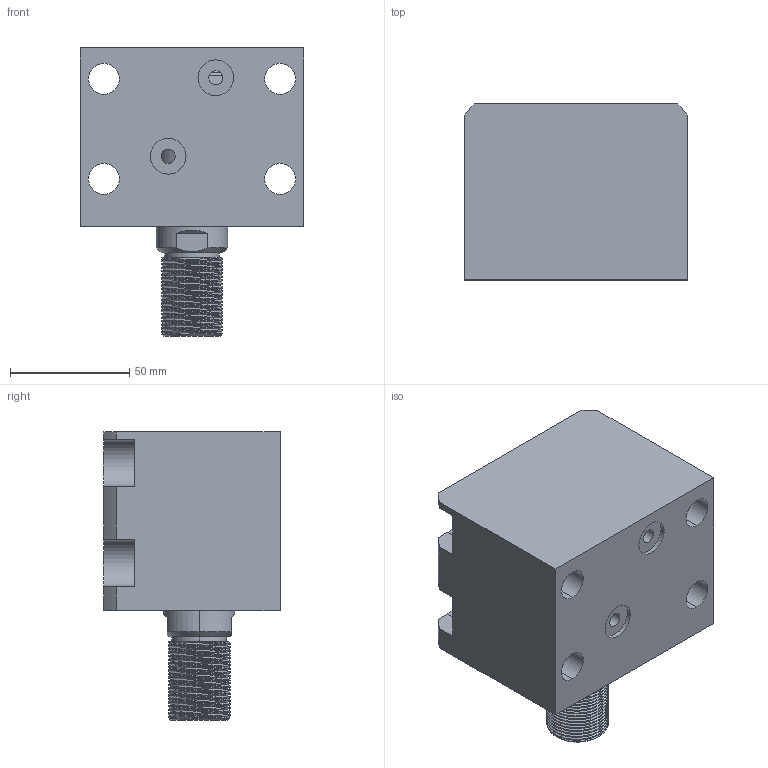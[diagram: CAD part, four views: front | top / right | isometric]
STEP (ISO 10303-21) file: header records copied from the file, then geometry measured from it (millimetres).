
FILE_DESCRIPTION (( 'STEP AP203' ), '1' );
FILE_NAME ('CHTB-LAM50-15W.STEP', '2018-05-23T09:28:22', ( '' ), ( '' ), 'SwSTEP 2.0', 'SolidWorks 2015', '' );
FILE_SCHEMA (( 'CONFIG_CONTROL_DESIGN' ));
Length unit declared in the file: millimetre
Products named in the file (4): 掛极LAM50-15W; CHTB-LAM50-15W; 活塞杆LA50-15W; CHTM-SDMA50QG
Assembly tree (3 placements, depth 2):
  CHTB-LAM50-15W
    掛极LAM50-15W
    活塞杆LA50-15W
    CHTM-SDMA50QG
Bounding box: 94 x 74 x 121 mm (x, y, z)
Volume: 470535.4 mm3; surface area: 93891.7 mm2
Topology: 3 solids, 3 shells, 224 faces, 623 edges, 417 vertices
Faces by surface type: cylinder 134, plane 44, bspline 16, torus 16, cone 14
Entity records: 14475 total; most frequent: CARTESIAN_POINT 8809, ORIENTED_EDGE 1238, DIRECTION 969, EDGE_CURVE 619, VERTEX_POINT 417, AXIS2_PLACEMENT_3D 380, EDGE_LOOP 254, FACE_OUTER_BOUND 224
